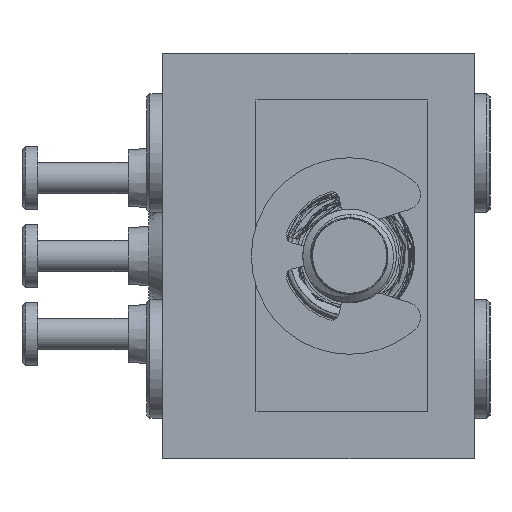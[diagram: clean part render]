
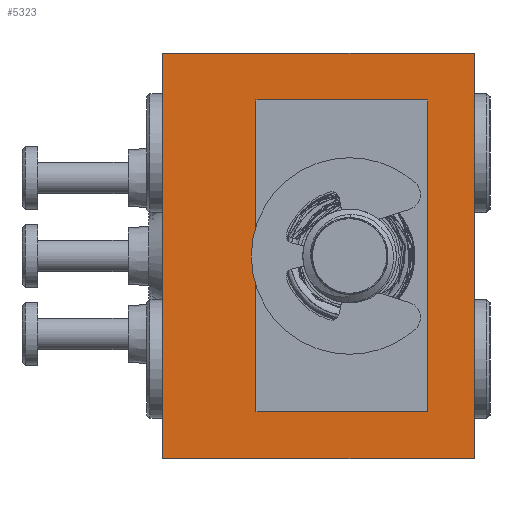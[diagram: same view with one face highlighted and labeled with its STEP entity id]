
A CAD part, left-side view. The second image highlights one B-rep face of the part: STEP entity #5323.
In plain terms, the highlighted planar face has unit normal (-1, 0, 0).
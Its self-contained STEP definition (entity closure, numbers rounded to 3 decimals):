
#421 = EDGE_CURVE ( 'NONE', #43773, #4917, #13899, .T. ) ;
#1123 = VECTOR ( 'NONE', #20782, 1000. ) ;
#3524 = CARTESIAN_POINT ( 'NONE',  ( -38., -3.5, -5. ) ) ;
#4150 = DIRECTION ( 'NONE',  ( 0., -1., 0. ) ) ;
#4636 = CARTESIAN_POINT ( 'NONE',  ( -38., 5., 6.5 ) ) ;
#4742 = DIRECTION ( 'NONE',  ( 0., 0., 1. ) ) ;
#4917 = VERTEX_POINT ( 'NONE', #26503 ) ;
#5144 = VECTOR ( 'NONE', #10159, 1000. ) ;
#5323 = ADVANCED_FACE ( 'NONE', ( #46296, #27656 ), #13616, .F. ) ;
#6250 = CARTESIAN_POINT ( 'NONE',  ( -38., -3.5, 5. ) ) ;
#7084 = ORIENTED_EDGE ( 'NONE', *, *, #39789, .F. ) ;
#7486 = EDGE_LOOP ( 'NONE', ( #8844, #15267, #30343, #7084 ) ) ;
#7699 = LINE ( 'NONE', #26454, #47286 ) ;
#8844 = ORIENTED_EDGE ( 'NONE', *, *, #29248, .F. ) ;
#10159 = DIRECTION ( 'NONE',  ( 0., 0., -1. ) ) ;
#11073 = EDGE_LOOP ( 'NONE', ( #32091, #28592, #15220, #13384 ) ) ;
#12396 = LINE ( 'NONE', #30293, #15921 ) ;
#13384 = ORIENTED_EDGE ( 'NONE', *, *, #421, .T. ) ;
#13616 = PLANE ( 'NONE',  #36436 ) ;
#13708 = CARTESIAN_POINT ( 'NONE',  ( -38., -5., 6.5 ) ) ;
#13773 = CARTESIAN_POINT ( 'NONE',  ( -38., 5., 6.5 ) ) ;
#13871 = DIRECTION ( 'NONE',  ( 0., 0., -1. ) ) ;
#13899 = LINE ( 'NONE', #4636, #5144 ) ;
#14653 = VERTEX_POINT ( 'NONE', #29100 ) ;
#14718 = LINE ( 'NONE', #44921, #30977 ) ;
#15220 = ORIENTED_EDGE ( 'NONE', *, *, #31382, .F. ) ;
#15267 = ORIENTED_EDGE ( 'NONE', *, *, #19015, .F. ) ;
#15333 = LINE ( 'NONE', #32398, #35071 ) ;
#15413 = VERTEX_POINT ( 'NONE', #25146 ) ;
#15505 = LINE ( 'NONE', #13708, #34098 ) ;
#15921 = VECTOR ( 'NONE', #4742, 1000. ) ;
#16156 = EDGE_CURVE ( 'NONE', #15413, #41598, #15505, .T. ) ;
#17555 = DIRECTION ( 'NONE',  ( 0., 0., -1. ) ) ;
#18668 = EDGE_CURVE ( 'NONE', #14653, #20801, #15333, .T. ) ;
#18906 = DIRECTION ( 'NONE',  ( 0., -1., 0. ) ) ;
#19015 = EDGE_CURVE ( 'NONE', #20801, #20916, #14718, .T. ) ;
#20782 = DIRECTION ( 'NONE',  ( 0., -1., 0. ) ) ;
#20801 = VERTEX_POINT ( 'NONE', #48117 ) ;
#20916 = VERTEX_POINT ( 'NONE', #3524 ) ;
#21698 = VERTEX_POINT ( 'NONE', #6250 ) ;
#22657 = CARTESIAN_POINT ( 'NONE',  ( -38., 2., 5. ) ) ;
#25146 = CARTESIAN_POINT ( 'NONE',  ( -38., -5., 6.5 ) ) ;
#25262 = VECTOR ( 'NONE', #32163, 1000. ) ;
#26033 = CARTESIAN_POINT ( 'NONE',  ( -38., -5., -6.5 ) ) ;
#26432 = LINE ( 'NONE', #22657, #25262 ) ;
#26454 = CARTESIAN_POINT ( 'NONE',  ( -38., 5., 6.5 ) ) ;
#26503 = CARTESIAN_POINT ( 'NONE',  ( -38., 5., -6.5 ) ) ;
#27656 = FACE_OUTER_BOUND ( 'NONE', #11073, .T. ) ;
#28592 = ORIENTED_EDGE ( 'NONE', *, *, #16156, .F. ) ;
#29100 = CARTESIAN_POINT ( 'NONE',  ( -38., 2., 5. ) ) ;
#29248 = EDGE_CURVE ( 'NONE', #20916, #21698, #12396, .T. ) ;
#30293 = CARTESIAN_POINT ( 'NONE',  ( -38., -3.5, -5. ) ) ;
#30343 = ORIENTED_EDGE ( 'NONE', *, *, #18668, .F. ) ;
#30977 = VECTOR ( 'NONE', #18906, 1000. ) ;
#31382 = EDGE_CURVE ( 'NONE', #43773, #15413, #7699, .T. ) ;
#32091 = ORIENTED_EDGE ( 'NONE', *, *, #42291, .T. ) ;
#32163 = DIRECTION ( 'NONE',  ( 0., 1., 0. ) ) ;
#32263 = CARTESIAN_POINT ( 'NONE',  ( -38., 5., 6.5 ) ) ;
#32398 = CARTESIAN_POINT ( 'NONE',  ( -38., 2., -5. ) ) ;
#34098 = VECTOR ( 'NONE', #35972, 1000. ) ;
#35071 = VECTOR ( 'NONE', #13871, 1000. ) ;
#35572 = CARTESIAN_POINT ( 'NONE',  ( -38., 5., -6.5 ) ) ;
#35972 = DIRECTION ( 'NONE',  ( 0., 0., -1. ) ) ;
#36436 = AXIS2_PLACEMENT_3D ( 'NONE', #13773, #39783, #17555 ) ;
#39783 = DIRECTION ( 'NONE',  ( 1., 0., 0. ) ) ;
#39789 = EDGE_CURVE ( 'NONE', #21698, #14653, #26432, .T. ) ;
#40740 = LINE ( 'NONE', #35572, #1123 ) ;
#41598 = VERTEX_POINT ( 'NONE', #26033 ) ;
#42291 = EDGE_CURVE ( 'NONE', #4917, #41598, #40740, .T. ) ;
#43773 = VERTEX_POINT ( 'NONE', #32263 ) ;
#44921 = CARTESIAN_POINT ( 'NONE',  ( -38., 2., -5. ) ) ;
#46296 = FACE_BOUND ( 'NONE', #7486, .T. ) ;
#47286 = VECTOR ( 'NONE', #4150, 1000. ) ;
#48117 = CARTESIAN_POINT ( 'NONE',  ( -38., 2., -5. ) ) ;
